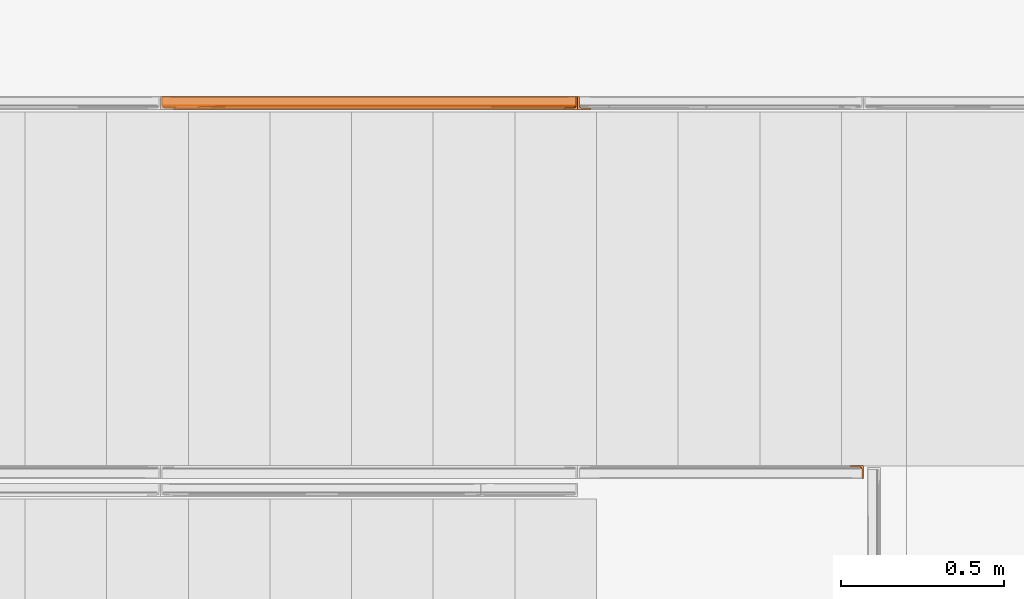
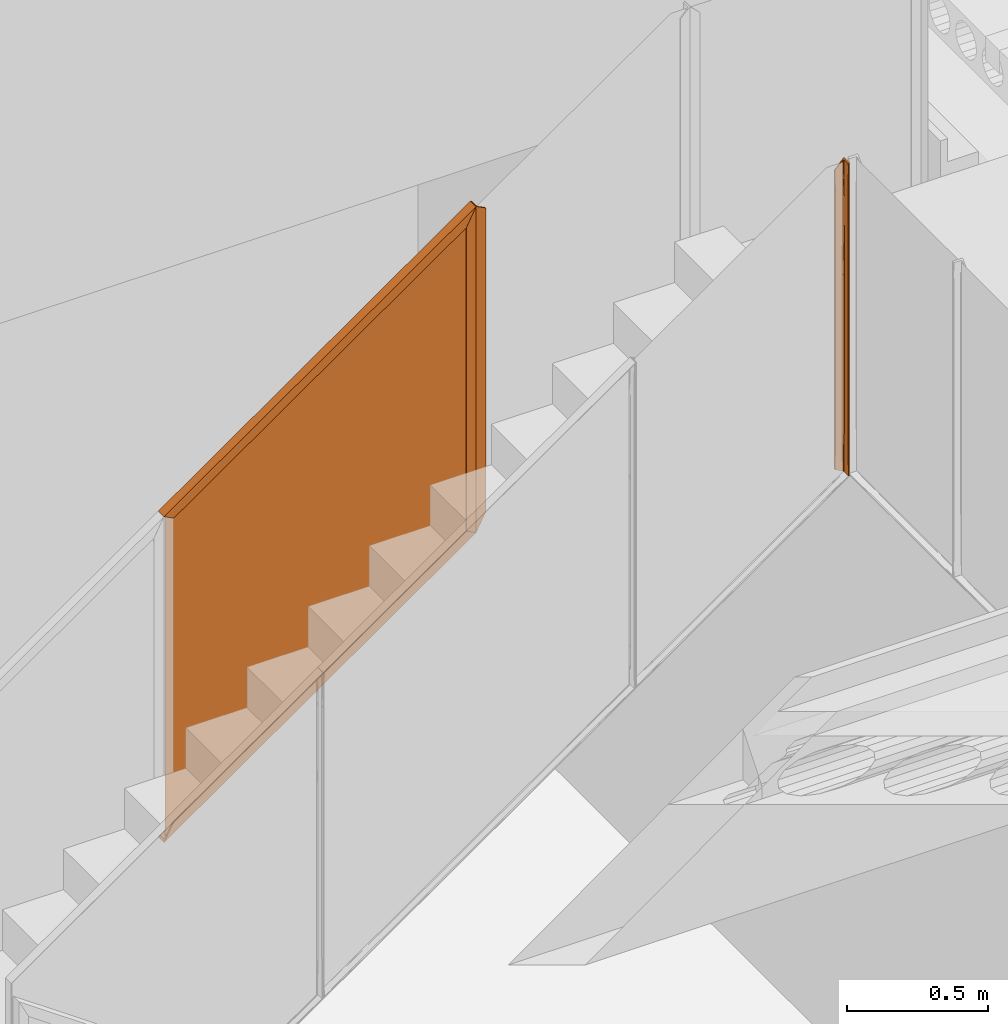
# One storey, part 225 of 230: 6 proxies.
"""IFC4X3_ADD2 building model written with IfcOpenShell, lengths in millimetres."""

from ifc_helpers import new_model, si_unit, direction, frame, origin_with_axes, place, context, subcontext, project, spatial, triangles, polygons, source, transform, mapped, material, type_object, type_shapes, element, save


model = new_model("IFC4X3_ADD2")

# Units and contexts
model_context = context("Model", 3, precision=1e-05, world=origin_with_axes(), true_north=direction((0.0, 1.0)))
body_context = subcontext(model_context, "Body", "Model", "MODEL_VIEW")
ifc_project = project(units=[si_unit("LENGTHUNIT", "METRE", prefix="MILLI"), si_unit("AREAUNIT", "SQUARE_METRE"), si_unit("VOLUMEUNIT", "CUBIC_METRE"), si_unit("PLANEANGLEUNIT", "RADIAN"), si_unit("TIMEUNIT", "SECOND"), si_unit("MASSUNIT", "GRAM")], contexts=[model_context])

# Site, building, storey
site_placement = place(None, origin_with_axes())
site = spatial("IfcSite", under=ifc_project, at=site_placement, Name="Site", CompositionType="ELEMENT")
building_placement = place(site_placement, origin_with_axes())
building = spatial("IfcBuilding", under=site, at=building_placement, Name="IFC Building Story")
storey_placement = place(building_placement, origin_with_axes())
storey = spatial("IfcBuildingStorey", under=building, at=storey_placement, Name="ETAGE 00 (0)", Elevation=0.0)

# Proxies
ifc_material = material(Name="<Unnamed>")
building_element_proxy_type_1 = type_object("IfcBuildingElementProxyType", Name="97", PredefinedType="NOTDEFINED")
shared_shape_1 = source(origin_with_axes(), body_context, "Body", "Tessellation", [
    polygons([(40.0, 1.99999993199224, 76.8392851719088), (1237.50000045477, 1.99999985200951, 915.337812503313), (1237.50000045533, 0.0, 915.337812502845), (40.0, 0.0, 76.8392851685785), (1.72894897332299e-07, 0.0, 0.0), (2.27765940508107e-07, 40.0072601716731, 4.9245548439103e-08), (2.00000017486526, 40.0, 3.84196425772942), (3.15898104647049, 39.7732980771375, 6.0683458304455), (4.5569103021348, 38.6796141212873, 8.75374298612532), (4.9001468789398, 37.8683818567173, 9.413094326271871), (5.00000013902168, 36.9999999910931, 9.60491065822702), (5.00000011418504, 10.9999999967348, 9.60491064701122), (5.02818126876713, 10.3182316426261, 9.6590461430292), (5.35691644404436, 8.7353023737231, 10.2905405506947), (6.54115542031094, 6.81750507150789, 12.5654424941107), (7.40971539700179, 6.20097633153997, 14.2339307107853), (8.12516799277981, 5.69312759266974, 15.6083023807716), (11.0000000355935, 4.99861930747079, 21.1308034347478), (36.9999997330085, 5.00000000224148, 71.07633888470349), (38.1566359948, 4.77300227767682, 73.2982165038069), (39.5572142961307, 3.67694191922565, 75.98870242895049), (39.9003540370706, 2.86608848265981, 76.6478677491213), (638.750046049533, 40.0, 449.6991465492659), (161.187676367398, 40.0, 115.306375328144), (1277.50000043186, 39.9927336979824, 894.515130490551), (1275.50000045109, 40.0, 895.5562645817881), (1116.31236418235, 40.0, 784.091881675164), (1272.50000045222, 37.0000000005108, 897.117965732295), (1272.50000045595, 10.9999999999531, 897.117965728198), (955.6250003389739, 10.9999999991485, 675.2397019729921), (321.875000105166, 10.9999999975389, 231.483174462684), (323.405574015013, 8.07035374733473, 236.108498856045), (953.160571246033, 7.94893734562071, 677.210526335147), (638.169138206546, 7.929609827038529, 456.676758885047), (1272.42901116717, 10.093124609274, 897.154920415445), (1271.51984257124, 7.78356843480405, 897.6282036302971), (1269.41633029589, 5.81847384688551, 898.723222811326), (1266.5005940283, 5.000284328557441, 900.2405203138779), (187.43746173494, 5.000451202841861, 176.413783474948), (1240.50000047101, 5.000451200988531, 913.776111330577), (1090.06253002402, 5.00045120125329, 808.438660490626), (1238.64480927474, 4.31734955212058, 914.741862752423), (1237.77400605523, 3.22413762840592, 915.195174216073), (1277.50000045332, 0.0, 894.515130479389), (1273.6456104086, 39.3198870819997, 896.521598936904), (1272.77519425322, 38.2287950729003, 896.974708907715)], [[[1, 2, 3, 4]], [[19, 20, 21]], [[19, 21, 22]], [[19, 22, 1]], [[19, 1, 4]], [[4, 5, 18]], [[4, 18, 19]], [[5, 17, 18]], [[5, 16, 17]], [[5, 15, 16]], [[5, 14, 15]], [[5, 13, 14]], [[5, 12, 13]], [[5, 7, 8]], [[5, 8, 9]], [[5, 9, 10]], [[5, 10, 11]], [[5, 11, 12]], [[5, 6, 7]], [[23, 24, 7, 6]], [[6, 25, 23]], [[25, 26, 27, 23]], [[31, 12, 11]], [[11, 30, 31]], [[11, 28, 30]], [[28, 29, 30]], [[34, 32, 31]], [[31, 30, 34]], [[30, 33, 34]], [[30, 29, 35]], [[35, 33, 30]], [[36, 37, 33]], [[33, 35, 36]], [[16, 15, 31]], [[14, 13, 31]], [[13, 12, 31]], [[31, 15, 14]], [[18, 17, 32]], [[32, 18, 38]], [[34, 32, 38]], [[38, 33, 34]], [[17, 16, 32]], [[33, 37, 38]], [[31, 32, 16]], [[39, 19, 18]], [[41, 39, 18]], [[41, 18, 38]], [[38, 40, 41]], [[42, 43, 41]], [[41, 40, 42]], [[41, 43, 2]], [[2, 1, 39, 41]], [[1, 22, 39]], [[21, 20, 39]], [[39, 22, 21]], [[20, 19, 39]], [[5, 4, 3, 44]], [[6, 5, 44, 25]], [[45, 46, 27]], [[27, 26, 45]], [[27, 46, 28]], [[23, 27, 28]], [[28, 24, 23]], [[28, 11, 24]], [[11, 10, 24]], [[9, 8, 24]], [[24, 10, 9]], [[8, 7, 24]], [[29, 28, 46]], [[29, 46, 45]], [[29, 45, 26]], [[29, 26, 25]], [[29, 25, 44]], [[44, 35, 29]], [[44, 36, 35]], [[44, 37, 36]], [[44, 38, 37]], [[44, 3, 2]], [[44, 2, 43]], [[44, 43, 42]], [[44, 42, 40]], [[44, 40, 38]]]),
])
type_shapes(building_element_proxy_type_1, [shared_shape_1])
proxy_1_placement = place(storey_placement, frame((36336.689477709, 2977.49996376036, 2497.03385089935), z_axis=(0.0, 0.0, 1.0), x_axis=(1.0, 0.0, 0.0)))
element("IfcBuildingElementProxy", 1, at=proxy_1_placement, inside=storey, type_object=building_element_proxy_type_1, material=ifc_material, Name="49", ObjectType="49", context=body_context, shape_type="MappedRepresentation", body=[
    mapped(shared_shape_1, transform((0.0, 0.0, 0.0))),
])
building_element_proxy_type_2 = type_object("IfcBuildingElementProxyType", Name="143", PredefinedType="NOTDEFINED")
shared_shape_2 = source(origin_with_axes(), body_context, "Body", "Tessellation", [
    polygons([(1087.81250001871, 1.99999999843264, 732.700740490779), (938.125000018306, 1.99999999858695, 628.029206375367), (788.437500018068, 1.99999999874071, 523.3576722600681), (638.750000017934, 1.99999999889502, 418.686138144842), (489.062500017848, 1.99999999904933, 314.014604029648), (339.375000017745, 1.9999999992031, 209.343069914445), (189.687500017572, 1.99999999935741, 104.67153579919), (40.0, 1.99999999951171, 1.68333698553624e-06), (40.0, 0.0, 1.68509772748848e-06), (1237.5000000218, 0.0, 837.372274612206), (1237.50000001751, 1.99999999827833, 837.372274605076), (1.23013705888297e-08, 40.0001389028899, 20.584717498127), (2.0000000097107, 40.0001362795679, 19.5554817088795), (160.482006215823, 40.0001184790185, 130.518769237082), (319.422385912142, 40.0001006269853, 241.802993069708), (478.692737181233, 40.0000827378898, 353.318250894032), (638.164658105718, 40.0000648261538, 464.974640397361), (797.709746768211, 40.00004690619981, 576.682259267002), (957.1996012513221, 40.0000289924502, 688.351205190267), (1116.50581963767, 40.0000110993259, 799.891575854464), (1275.49999999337, 39.9999932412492, 911.213468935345), (1277.4999999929, 39.9999954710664, 915.0998475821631), (1277.50000002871, 0.0, 915.099847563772), (1273.93022095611, 39.7173366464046, 908.1630910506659), (1272.93354728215, 38.841586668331, 906.226365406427), (1272.59298617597, 37.9523339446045, 905.564590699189), (1272.5000000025, 37.0, 905.383900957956), (1272.50000002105, 11.0, 905.3839009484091), (1272.26399857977, 8.86950188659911, 904.925305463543), (1271.53327857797, 7.15584528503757, 903.505378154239), (1270.71781596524, 6.23859773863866, 901.92077990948), (1270.17274808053, 5.94308596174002, 900.861609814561), (1269.06788018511, 5.34407529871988, 898.7146423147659), (1266.50000002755, 5.00000090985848, 893.724765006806), (1240.50000002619, 5.00000041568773, 843.2018425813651), (1238.93166692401, 4.71681148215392, 840.154274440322), (1237.9333113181, 3.83954419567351, 838.214280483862), (1237.59276006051, 2.95013489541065, 837.552524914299), (1114.06250002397, 36.9999999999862, 794.4623668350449), (955.625000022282, 36.9999999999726, 683.540832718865), (797.187500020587, 36.9999999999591, 572.619298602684), (638.750000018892, 36.9999999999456, 461.697764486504), (480.312500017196, 36.999999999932, 350.776230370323), (321.875000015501, 36.999999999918, 239.854696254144), (163.437500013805, 36.9999999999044, 128.933162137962), (5.00000001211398, 36.9999999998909, 18.0116280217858), (5.00000001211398, 10.9999999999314, 18.0116280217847), (319.96971245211, 10.9999999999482, 238.520811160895), (955.774203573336, 10.9999999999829, 683.645289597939), (638.750000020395, 5.00000009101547, 454.324342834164), (638.176335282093, 7.933969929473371, 457.547947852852), (322.454124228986, 7.947862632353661, 236.548584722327), (954.255419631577, 8.06879028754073, 679.013377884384), (952.625000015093, 5.00000050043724, 674.024553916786), (7.22169838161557, 6.32171817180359, 16.8683022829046), (9.98011779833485, 5.088465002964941, 15.4487702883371), (11.000000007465, 4.99999927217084, 14.9239206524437), (5.5531908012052, 8.429413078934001, 17.7269461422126), (37.0000000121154, 4.99999949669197, 1.54385537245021), (186.731737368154, 4.99999969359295, 106.257534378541), (336.922019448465, 4.99999989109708, 211.291892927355), (487.442397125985, 5.00000008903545, 316.5571011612), (638.164421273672, 5.000000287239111, 421.963329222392), (788.9596427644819, 5.000000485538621, 527.420747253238), (939.6996124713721, 5.000000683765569, 632.839525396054), (1090.25588126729, 5.000000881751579, 738.129833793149), (38.6040595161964, 4.53507905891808, 0.7183776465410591), (39.6004225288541, 3.51430242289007, 0.205631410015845), (39.990240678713, 2.2486723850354, 0.00502401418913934), (1.2128111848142e-08, 0.0, 20.5847174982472), (3.61760520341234, 39.5301840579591, 18.7230331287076), (4.60426995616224, 38.5130130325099, 18.2152777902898), (4.99055690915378, 37.2461359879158, 18.0164876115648)], [[[7, 8, 9]], [[9, 6, 7]], [[9, 5, 6]], [[9, 4, 5]], [[9, 3, 4]], [[9, 2, 3]], [[9, 1, 2]], [[9, 10, 1]], [[10, 11, 1]], [[20, 21, 22]], [[22, 19, 20]], [[22, 18, 19]], [[22, 17, 18]], [[22, 16, 17]], [[22, 15, 16]], [[22, 14, 15]], [[22, 12, 14]], [[12, 13, 14]], [[35, 36, 37]], [[35, 37, 38]], [[35, 38, 11]], [[35, 11, 10]], [[10, 23, 34]], [[10, 34, 35]], [[23, 33, 34]], [[23, 32, 33]], [[23, 31, 32]], [[23, 30, 31]], [[23, 29, 30]], [[23, 28, 29]], [[23, 21, 24]], [[23, 24, 25]], [[23, 25, 26]], [[23, 26, 27]], [[23, 27, 28]], [[23, 22, 21]], [[45, 46, 47]], [[45, 47, 48]], [[48, 44, 45]], [[48, 43, 44]], [[48, 42, 43]], [[48, 49, 42]], [[49, 41, 42]], [[49, 40, 41]], [[49, 39, 40]], [[49, 28, 27]], [[49, 27, 39]], [[50, 51, 52]], [[34, 33, 53]], [[53, 54, 34]], [[33, 32, 53]], [[51, 53, 49, 48]], [[55, 56, 52]], [[57, 50, 52]], [[52, 56, 57]], [[48, 47, 58]], [[58, 52, 48]], [[58, 55, 52]], [[32, 31, 49]], [[29, 28, 49]], [[49, 30, 29]], [[49, 31, 30]], [[54, 53, 51]], [[51, 50, 54]], [[49, 53, 32]], [[48, 52, 51]], [[62, 63, 50]], [[50, 61, 62]], [[50, 57, 61]], [[57, 60, 61]], [[57, 59, 60]], [[64, 65, 54]], [[64, 54, 50]], [[50, 63, 64]], [[66, 35, 34]], [[66, 34, 54]], [[54, 65, 66]], [[4, 63, 62]], [[66, 1, 11]], [[11, 38, 66]], [[37, 36, 66]], [[66, 38, 37]], [[36, 35, 66]], [[7, 6, 61]], [[6, 5, 62]], [[67, 68, 60]], [[60, 69, 8]], [[8, 7, 60]], [[60, 68, 69]], [[2, 65, 64]], [[1, 66, 65]], [[3, 64, 63]], [[63, 4, 3]], [[65, 2, 1]], [[64, 3, 2]], [[60, 59, 67]], [[62, 61, 6]], [[61, 60, 7]], [[62, 5, 4]], [[23, 10, 9, 70]], [[22, 23, 70, 12]], [[42, 17, 16]], [[20, 39, 27]], [[27, 26, 20]], [[25, 24, 20]], [[20, 26, 25]], [[24, 21, 20]], [[45, 44, 15]], [[44, 43, 16]], [[71, 72, 14]], [[14, 73, 46]], [[46, 45, 14]], [[14, 72, 73]], [[40, 19, 18]], [[39, 20, 19]], [[41, 18, 17]], [[17, 42, 41]], [[19, 40, 39]], [[18, 41, 40]], [[14, 13, 71]], [[16, 15, 44]], [[15, 14, 45]], [[16, 43, 42]], [[46, 73, 72]], [[46, 72, 71]], [[46, 71, 13]], [[46, 13, 12]], [[12, 70, 47]], [[12, 47, 46]], [[70, 58, 47]], [[70, 55, 58]], [[70, 56, 55]], [[70, 57, 56]], [[70, 8, 69]], [[70, 69, 68]], [[70, 68, 67]], [[70, 67, 59]], [[70, 59, 57]], [[70, 9, 8]]]),
])
type_shapes(building_element_proxy_type_2, [shared_shape_2])
proxy_2_placement = place(storey_placement, frame((36336.689478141, 2977.49996376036, 3886.92153312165), z_axis=(0.0, 0.0, 1.0), x_axis=(1.0, 0.0, 0.0)))
element("IfcBuildingElementProxy", 2, at=proxy_2_placement, inside=storey, type_object=building_element_proxy_type_2, material=ifc_material, Name="77", ObjectType="77", context=body_context, shape_type="MappedRepresentation", body=[
    mapped(shared_shape_2, transform((0.0, 0.0, 0.0))),
])
building_element_proxy_type_3 = type_object("IfcBuildingElementProxyType", Name="149", PredefinedType="NOTDEFINED")
shared_shape_3 = source(origin_with_axes(), body_context, "Body", "Tessellation", [
    polygons([(2.50315565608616e-08, 1.99999999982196, 184.812951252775), (2.50055677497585e-08, 2.00000000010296, 1332.74482636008), (2.50185621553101e-08, 0.0, 1332.74482636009), (2.50488824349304e-08, 0.0, 20.8226820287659), (2.50358880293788e-08, 1.99999999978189, 20.8226820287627), (38.000000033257, 40.0000372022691, 703.813577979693), (40.0, 39.9778685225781, 0.0), (40.0, 40.0221291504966, 1410.47239765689), (38.0000006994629, 40.0110645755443, 1406.58602031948), (38.0000005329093, 40.0083077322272, 1230.89290986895), (37.9999995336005, 39.9917666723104, 176.734246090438), (37.9999993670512, 39.9890098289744, 1.04113443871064), (0.059287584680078, 2.81727723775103, 1332.8600331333), (0.394695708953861, 3.82782868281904, 1333.51179461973), (1.49587423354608, 4.75863882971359, 1335.65159297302), (3.00000009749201, 4.9999999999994, 1338.57439429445), (29.0000000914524, 4.99999999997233, 1389.09731671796), (31.668913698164, 5.57301614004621, 1394.28352114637), (32.653467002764, 5.784399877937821, 1396.1966946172), (33.5312452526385, 6.55181499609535, 1397.90238394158), (33.9146872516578, 6.88704680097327, 1398.64748434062), (34.6935496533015, 8.50139957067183, 1400.1609614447), (35.0000000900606, 10.9999999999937, 1400.7564526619), (35.0000000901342, 36.9999999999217, 1400.75645266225), (35.0601683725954, 37.8244147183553, 1400.87337102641), (35.3968376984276, 38.8338386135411, 1401.52758326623), (36.4909184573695, 39.7578766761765, 1403.65358931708), (40.0000000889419, 0.0, 1410.47239928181), (32.2828352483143, 8.24402191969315, 699.7603112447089), (35.0018151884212, 10.9982080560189, 701.6796405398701), (34.998342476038, 11.0016363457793, 177.372031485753), (32.0434664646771, 8.00846376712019, 177.997208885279), (32.0353208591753, 7.99790927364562, 351.861102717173), (32.1276193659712, 8.0890999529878, 525.759745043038), (35.0000000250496, 10.9999999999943, 1225.98724966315), (35.0000318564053, 10.9999894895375, 1051.21804662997), (34.9153763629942, 10.7436068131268, 1225.8506280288), (29.000000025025, 4.999999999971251, 1043.25454526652), (31.6512195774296, 5.38018187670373, 1046.79950592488), (34.649428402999, 8.79044244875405, 2.78533129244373), (35.0000000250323, 10.9999999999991, 2.60283525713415), (32.7348707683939, 6.14334487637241, 3.781986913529), (35.0000000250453, 10.9999999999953, 876.448843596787), (32.9955791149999, 7.61303232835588, 1048.55286551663), (32.4651092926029, 8.3974462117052, 873.874776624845), (29.0000000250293, 4.99999999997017, 870.333159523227), (29.0014614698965, 4.99852288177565, 5.726237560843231), (30.770746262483, 5.219483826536, 4.80444541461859), (3.00000002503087, 4.99999999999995, 1173.66021782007), (3.00000002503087, 4.99999999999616, 184.175158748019), (3.00000002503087, 4.999999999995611, 19.2609808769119), (0.324702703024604, 3.45917239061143, 20.6536525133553), (1.11787351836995, 4.41419754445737, 20.2407539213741), (34.9975190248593, 37.0024878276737, 177.372038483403), (35.3246907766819, 38.4607263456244, 2.43381195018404), (36.1159680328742, 39.4139098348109, 2.0218990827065), (35.0000000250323, 37.0000000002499, 2.60283525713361), (40.0, 0.0, 0.0)], [[[1, 2, 3]], [[3, 4, 1]], [[4, 5, 1]], [[6, 7, 8]], [[8, 9, 10, 6]], [[6, 11, 12, 7]], [[9, 8, 28]], [[9, 28, 23]], [[23, 24, 25]], [[23, 25, 26]], [[23, 26, 27]], [[23, 27, 9]], [[28, 22, 23]], [[28, 21, 22]], [[28, 20, 21]], [[28, 19, 20]], [[28, 18, 19]], [[28, 17, 18]], [[28, 3, 16]], [[28, 16, 17]], [[3, 2, 13]], [[3, 13, 14]], [[3, 14, 15]], [[3, 15, 16]], [[34, 29, 30]], [[30, 33, 34]], [[30, 31, 33]], [[31, 32, 33]], [[22, 21, 35]], [[20, 35, 36, 37]], [[35, 21, 20]], [[17, 38, 39]], [[31, 32, 40]], [[40, 41, 31]], [[42, 40, 32]], [[43, 36, 44]], [[45, 29, 30]], [[38, 46, 45]], [[45, 39, 38]], [[19, 18, 37]], [[37, 20, 19]], [[18, 39, 37]], [[34, 29, 46]], [[46, 33, 34]], [[46, 32, 33]], [[46, 47, 32]], [[47, 48, 32]], [[32, 48, 42]], [[29, 45, 46]], [[39, 44, 37]], [[45, 44, 39]], [[30, 43, 45]], [[37, 44, 36]], [[44, 45, 43]], [[39, 18, 17]], [[35, 23, 22]], [[38, 17, 16]], [[38, 16, 49]], [[49, 46, 38]], [[50, 51, 47]], [[46, 49, 50]], [[50, 47, 46]], [[14, 13, 49]], [[49, 15, 14]], [[49, 16, 15]], [[49, 13, 2]], [[2, 1, 50, 49]], [[52, 53, 1]], [[53, 51, 50]], [[50, 1, 53]], [[1, 5, 52]], [[26, 25, 10]], [[10, 27, 26]], [[10, 9, 27]], [[10, 25, 24]], [[6, 10, 24]], [[24, 54, 6]], [[54, 11, 6]], [[55, 56, 54]], [[56, 12, 11]], [[11, 54, 56]], [[54, 57, 55]], [[58, 4, 3, 28]], [[7, 58, 28, 8]], [[30, 31, 54]], [[54, 43, 30]], [[54, 36, 43]], [[54, 24, 36]], [[24, 35, 36]], [[24, 23, 35]], [[31, 41, 57]], [[31, 57, 54]], [[47, 51, 53]], [[47, 53, 52]], [[47, 52, 5]], [[47, 5, 4]], [[47, 4, 58]], [[58, 48, 47]], [[58, 42, 48]], [[58, 40, 42]], [[58, 41, 40]], [[58, 7, 12]], [[58, 12, 56]], [[58, 56, 55]], [[58, 55, 57]], [[58, 57, 41]]]),
])
type_shapes(building_element_proxy_type_3, [shared_shape_3])
proxy_3_placement = place(storey_placement, frame((37574.1894781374, 2977.49996376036, 3391.54898137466), z_axis=(0.0, 0.0, 1.0), x_axis=(1.0, 0.0, 0.0)))
element("IfcBuildingElementProxy", 3, at=proxy_3_placement, inside=storey, type_object=building_element_proxy_type_3, material=ifc_material, Name="80", ObjectType="80", context=body_context, shape_type="MappedRepresentation", body=[
    mapped(shared_shape_3, transform((0.0, 0.0, 0.0))),
])
building_element_proxy_type_4 = type_object("IfcBuildingElementProxyType", Name="151", PredefinedType="NOTDEFINED")
shared_shape_4 = source(origin_with_axes(), body_context, "Body", "Tessellation", [
    polygons([(40.0, 2.00000000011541, 1225.75663370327), (40.0, 2.0000000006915, 76.8392850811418), (40.0, 0.0, 76.8392850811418), (40.0, 0.0, 1389.88768350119), (40.0, 2.00000000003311, 1389.88768350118), (1.70096768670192e-08, 0.0, 1410.47239934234), (1.70270027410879e-08, 39.9971901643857, 1410.47239934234), (2.00000001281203, 39.9985950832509, 1409.44316354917), (3.49665500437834, 39.5780675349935, 1408.67295810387), (4.50884411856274, 38.6258962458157, 1408.15206746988), (4.96403888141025, 37.463724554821, 1407.917816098), (5.000000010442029, 36.9999999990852, 1407.89930985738), (5.000000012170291, 10.9999999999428, 1407.89930985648), (5.569576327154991, 8.472297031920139, 1407.6061956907), (6.96526323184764, 6.74545982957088, 1406.88795023), (7.30921187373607, 6.31990356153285, 1406.71094810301), (10.1801047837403, 5.062518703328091, 1405.23353522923), (11.0000000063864, 4.9999999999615, 1404.81160247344), (36.9999999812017, 5.0, 1391.43153714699), (38.4727409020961, 4.58646381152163, 1390.67363831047), (39.5095098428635, 3.61571836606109, 1390.1400984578), (39.9645089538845, 2.45654027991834, 1389.90594777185), (2.00000000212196, 40.0014582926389, 179.301391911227), (1.99999999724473, 39.99853058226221, 1234.59339502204), (0.0, 40.0019598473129, 0.0), (2.00000000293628, 40.0019450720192, 3.84196425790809), (5.00000000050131, 36.9999999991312, 1233.1125099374), (5.00000000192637, 36.9999999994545, 9.60491063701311), (5.000000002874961, 11.0000000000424, 9.60491063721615), (5.00000000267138, 11.00000000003, 183.910266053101), (5.0000000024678, 11.0000000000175, 358.976664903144), (5.00000000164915, 10.9999999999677, 1060.61781597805), (5.000000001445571, 10.9999999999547, 1234.81327299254), (7.8957124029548, 8.062490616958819, 362.857106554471), (8.03917535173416, 7.921782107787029, 711.57104919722), (8.06425383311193, 7.89867599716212, 885.776703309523), (8.02384446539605, 7.94189282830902, 1059.74457741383), (10.9984621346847, 4.99844472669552, 194.090903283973), (10.9984621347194, 4.99844472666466, 1231.85150258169), (7.95454484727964, 7.98200485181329, 1233.34890067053), (7.61636162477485, 7.37027170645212, 188.481643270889), (5.212310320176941, 9.09705261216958, 10.0127549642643), (5.901405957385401, 7.44632891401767, 11.3364953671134), (6.72666561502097, 6.47011810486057, 12.9218044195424), (7.36248235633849, 6.095065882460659, 14.1431970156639), (9.17993657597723, 5.21405880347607, 191.241645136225), (11.0000000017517, 5.0, 21.1308033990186), (9.334594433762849, 5.28579382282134, 17.9315890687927), (8.48818373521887, 5.43104309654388, 16.3056492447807), (37.0000000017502, 5.0, 71.07633870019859), (37.0000000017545, 4.999999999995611, 235.880016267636), (37.0000000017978, 4.99999999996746, 1227.23751890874), (39.5803483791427, 3.71898521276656, 76.0331418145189), (39.9081470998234, 2.88536025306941, 76.6628372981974), (38.4491700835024, 4.7010733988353, 73.8601685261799), (0.0, 0.0, 0.0), (4.57852240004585, 38.72977252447, 8.795259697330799), (4.90718328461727, 37.8947340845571, 9.42661138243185), (3.45653819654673, 39.7030408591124, 6.63994809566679)], [[[1, 2, 3]], [[3, 4, 1]], [[4, 5, 1]], [[5, 4, 6]], [[6, 18, 19]], [[6, 19, 20]], [[6, 20, 21]], [[6, 21, 22]], [[6, 22, 5]], [[6, 17, 18]], [[6, 16, 17]], [[6, 15, 16]], [[6, 14, 15]], [[6, 13, 14]], [[6, 7, 12]], [[6, 12, 13]], [[7, 8, 9]], [[7, 9, 10]], [[7, 10, 11]], [[7, 11, 12]], [[24, 8, 7]], [[7, 23, 24]], [[7, 25, 23]], [[25, 26, 23]], [[32, 33, 27]], [[27, 31, 32]], [[27, 28, 31]], [[28, 30, 31]], [[28, 29, 30]], [[33, 13, 12]], [[33, 12, 27]], [[36, 37, 32]], [[32, 35, 36]], [[35, 32, 31]], [[31, 34, 35]], [[35, 34, 38]], [[38, 36, 35]], [[38, 37, 36]], [[38, 39, 37]], [[33, 40, 15]], [[14, 13, 33]], [[18, 17, 40]], [[40, 39, 18]], [[16, 15, 40]], [[40, 17, 16]], [[41, 34, 31]], [[42, 43, 30]], [[43, 44, 30]], [[45, 41, 30]], [[30, 44, 45]], [[34, 46, 38]], [[47, 38, 46]], [[48, 46, 41]], [[41, 49, 48]], [[39, 40, 37]], [[40, 33, 32]], [[32, 37, 40]], [[41, 45, 49]], [[46, 48, 47]], [[34, 41, 46]], [[30, 29, 42]], [[31, 30, 41]], [[15, 14, 33]], [[38, 47, 50]], [[38, 50, 51]], [[51, 52, 39]], [[51, 39, 38]], [[52, 19, 18]], [[52, 18, 39]], [[22, 21, 1]], [[21, 20, 1]], [[1, 5, 22]], [[20, 19, 52]], [[52, 1, 20]], [[53, 54, 51]], [[51, 55, 53]], [[51, 50, 55]], [[51, 54, 2]], [[2, 1, 52, 51]], [[6, 4, 3, 56]], [[7, 6, 56, 25]], [[11, 10, 27]], [[10, 9, 27]], [[27, 12, 11]], [[9, 8, 24]], [[24, 27, 9]], [[57, 58, 23]], [[23, 59, 57]], [[23, 26, 59]], [[23, 58, 28]], [[28, 27, 24, 23]], [[26, 25, 56]], [[26, 56, 29]], [[29, 28, 58]], [[29, 58, 57]], [[29, 57, 59]], [[29, 59, 26]], [[56, 42, 29]], [[56, 43, 42]], [[56, 44, 43]], [[56, 45, 44]], [[56, 49, 45]], [[56, 48, 49]], [[56, 47, 48]], [[56, 3, 50]], [[56, 50, 47]], [[3, 2, 54]], [[3, 54, 53]], [[3, 53, 55]], [[3, 55, 50]]]),
])
type_shapes(building_element_proxy_type_4, [shared_shape_4])
proxy_4_placement = place(storey_placement, frame((37614.1894781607, 2977.49996376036, 3391.54898137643), z_axis=(0.0, 0.0, 1.0), x_axis=(1.0, 0.0, 0.0)))
element("IfcBuildingElementProxy", 4, at=proxy_4_placement, inside=storey, type_object=building_element_proxy_type_4, material=ifc_material, Name="81", ObjectType="81", context=body_context, shape_type="MappedRepresentation", body=[
    mapped(shared_shape_4, transform((0.0, 0.0, 0.0))),
])
building_element_proxy_type_5 = type_object("IfcBuildingElementProxyType", Name="163", PredefinedType="NOTDEFINED")
shared_shape_5 = source(origin_with_axes(), body_context, "Body", "Tessellation", [
    polygons([(4.42151974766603e-07, 0.0, 1383.68079938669), (1255.50000045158, 0.0, 2262.48164374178), (1255.50000044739, 0.0, 879.11056455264), (0.0, 0.0, 0.0)], [[[1, 2, 3, 4]]]),
])
type_shapes(building_element_proxy_type_5, [shared_shape_5])
proxy_5_placement = place(storey_placement, frame((36347.6894777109, 2988.49996376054, 2518.16465438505), z_axis=(0.0, 0.0, 1.0), x_axis=(1.0, 0.0, 0.0)))
element("IfcBuildingElementProxy", 5, at=proxy_5_placement, inside=storey, type_object=building_element_proxy_type_5, material=ifc_material, Name="87", ObjectType="87", context=body_context, shape_type="MappedRepresentation", body=[
    mapped(shared_shape_5, transform((0.0, 0.0, 0.0))),
])
building_element_proxy_type_6 = type_object("IfcBuildingElementProxyType", Name="173", PredefinedType="NOTDEFINED")
shared_shape_6 = source(origin_with_axes(), body_context, "Body", "Tessellation", [
    triangles([(38449.1903137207, 1887.49990539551, 4034.97289581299), (38449.1903137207, 1887.49990539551, 5330.00024414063), (38449.1903137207, 1885.50002746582, 4034.97289581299), (38449.1903137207, 1885.50002746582, 5330.00024414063), (38489.1901977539, 1847.5000213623, 5370.00012817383), (38487.1903198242, 1847.5000213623, 5208.26581420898), (38487.1903198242, 1847.5000213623, 5368.00025024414), (38487.1903198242, 1847.5000213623, 4185.63056030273), (38489.1901977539, 1847.5000213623, 4014.15003890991), (38487.1903198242, 1847.5000213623, 4015.19125442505), (38484.1905029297, 1876.50130348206, 4697.53739547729), (38481.4488098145, 1879.27962226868, 4695.68576431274), (38481.3046325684, 1879.4249622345, 4526.25162963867), (38484.1881774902, 1876.49868736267, 4186.949084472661), (38481.220916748, 1879.50664329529, 4356.91022186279), (38481.2348693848, 1879.49138259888, 4187.59671936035), (38483.802154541, 1878.78822784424, 4016.95422821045), (38482.8208190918, 1880.49451904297, 4017.46553421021), (38482.4836303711, 1880.78403625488, 4017.64110488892), (38482.1510925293, 1879.89382896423, 5035.31358032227), (38484.1905029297, 1876.49999542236, 4867.7334022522), (38481.6232177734, 1879.13268356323, 4865.22715988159), (38484.0974853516, 1876.77134513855, 5207.982691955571), (38484.1905029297, 1876.49999542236, 5037.92969970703), (38478.1885437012, 1882.49991989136, 5030.245285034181), (38480.7976867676, 1882.10793800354, 5033.61135864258), (38478.1885437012, 1882.49991989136, 4861.85033111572), (38481.52089843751, 1881.61072998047, 4018.142527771), (38480.1395874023, 1882.2242099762, 4018.86050720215), (38478.1885437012, 1882.49919319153, 4019.87643356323), (38482.713848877, 1880.97414093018, 5363.53191833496), (38484.1812011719, 1876.49999542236, 5208.125706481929), (38483.9184265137, 1878.7883731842, 5364.72835693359), (38484.1905029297, 1876.49999542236, 5364.99985198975), (38480.923260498, 1882.08962516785, 5361.73260955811), (38478.1885437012, 1882.50006523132, 5359.00021820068), (38484.1905029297, 1876.49999542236, 4016.75278701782), (38452.1901306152, 1882.49991989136, 5179.788482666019), (38452.1901306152, 1882.49991989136, 5333.00006103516), (38452.1901306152, 1882.49991989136, 4197.17927398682), (38452.1901306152, 1882.49991989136, 4033.41107254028), (38450.3274536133, 1883.07909965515, 4034.3804901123), (38449.5158752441, 1884.04866256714, 4034.80284805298), (38449.4414611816, 1884.00680465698, 5330.253135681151), (38450.0716552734, 1883.12749786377, 5330.88158569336), (38485.3276428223, 1848.07934646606, 4016.160962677), (38484.5160644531, 1849.04876403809, 4016.58302993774), (38484.1905029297, 1850.4999835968, 4016.75278701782), (38484.1905029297, 1850.4999835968, 5364.99985198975), (38484.4439758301, 1849.00341796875, 5365.255068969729), (38485.0718444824, 1848.12658195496, 5365.883518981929), (38489.1901977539, 1887.49990539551, 5370.00012817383), (38489.1901977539, 1887.49990539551, 4014.15003890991)], [[1, 2, 3], [4, 3, 2], [5, 6, 7], [6, 5, 8], [8, 9, 10], [9, 8, 5], [11, 12, 13], [11, 13, 14], [15, 16, 14], [15, 14, 13], [17, 18, 14], [19, 16, 14], [14, 18, 19], [20, 21, 22], [23, 24, 20], [11, 22, 21], [22, 25, 26], [25, 22, 27], [22, 26, 20], [12, 27, 22], [28, 29, 16], [30, 15, 16], [15, 30, 27], [13, 27, 12], [27, 13, 15], [16, 29, 30], [31, 32, 23], [32, 31, 33], [32, 33, 34], [23, 35, 31], [35, 23, 26], [23, 20, 26], [36, 35, 26], [26, 25, 36], [16, 19, 28], [22, 11, 12], [24, 23, 32], [21, 20, 24], [14, 37, 17], [36, 25, 38], [38, 39, 36], [25, 27, 38], [27, 30, 40], [41, 40, 30], [27, 40, 38], [42, 43, 40], [40, 41, 42], [40, 43, 3], [40, 3, 4], [4, 38, 40], [38, 4, 44], [38, 45, 39], [38, 44, 45], [46, 47, 8], [8, 10, 46], [8, 47, 48], [8, 48, 49], [49, 6, 8], [6, 49, 50], [6, 51, 7], [6, 50, 51], [52, 2, 53], [1, 53, 2], [9, 5, 53], [52, 53, 5], [49, 24, 32], [24, 49, 21], [32, 34, 49], [11, 48, 14], [11, 21, 49], [14, 48, 37], [11, 49, 48], [41, 1, 3], [43, 42, 3], [41, 3, 42], [1, 30, 53], [30, 1, 41], [29, 28, 53], [30, 29, 53], [53, 28, 19], [19, 18, 53], [37, 9, 53], [18, 17, 53], [48, 47, 46], [10, 9, 48], [10, 48, 46], [48, 9, 37], [37, 53, 17], [49, 5, 7], [7, 51, 49], [50, 49, 51], [34, 5, 49], [5, 34, 52], [33, 31, 52], [34, 33, 52], [39, 45, 4], [44, 4, 45], [39, 4, 2], [31, 35, 52], [36, 2, 52], [52, 35, 36], [39, 2, 36]]),
])
type_shapes(building_element_proxy_type_6, [shared_shape_6])
proxy_6_placement = place(storey_placement, origin_with_axes())
element("IfcBuildingElementProxy", 6, at=proxy_6_placement, inside=storey, type_object=building_element_proxy_type_6, material=ifc_material, Name="96", ObjectType="96", context=body_context, shape_type="MappedRepresentation", body=[
    mapped(shared_shape_6, transform((0.0, 0.0, 0.0))),
])

save(model, "model.ifc")
